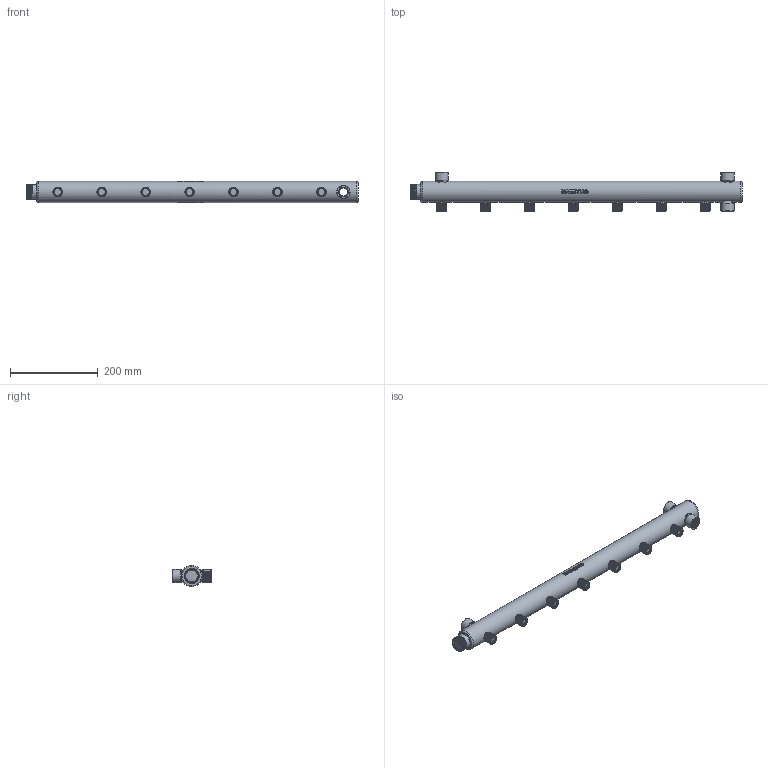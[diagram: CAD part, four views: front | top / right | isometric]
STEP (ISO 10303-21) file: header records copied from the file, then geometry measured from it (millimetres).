
FILE_DESCRIPTION(/* description */ (''),/* implementation_level */ '2;1');
FILE_NAME(/* name */ 'F:\Артём\00000\Работа удаленка\ГРВ\VTc.510.BS.060407.stp',/* time_stamp */ '2022-09-22T12:39:51+03:00',/* author */ ('almis'),/* organization */ (''),/* preprocessor_version */ 'ST-DEVELOPER v18',/* originating_system */ 'Autodesk Inventor 2020',/* authorisation */ '');
FILE_SCHEMA (('AUTOMOTIVE_DESIGN { 1 0 10303 214 3 1 1 }'));
Products named in the file (1): ГРВ-44.100
Bounding box: 755 x 89 x 48.02 mm (x, y, z)
Volume: 420095.5 mm3; surface area: 261854.8 mm2
Topology: 1 solids, 1 shells, 648 faces, 1772 edges, 1175 vertices
Faces by surface type: cylinder 348, plane 192, bspline 72, cone 34, torus 2
Full cylindrical faces by diameter (mm): 15.7 x12, 17.7 x84, 19 x30, 19.3 x7, 21.3 x70, 22.6 x33, 27.1 x1, 28 x5, 28.9 x6, 30 x3, 33.5 x6, 41 x1, 48 x1
Entity records: 52210 total; most frequent: CARTESIAN_POINT 37414, ORIENTED_EDGE 3544, DIRECTION 2289, EDGE_CURVE 1772, VERTEX_POINT 1175, B_SPLINE_CURVE_WITH_KNOTS 860, AXIS2_PLACEMENT_3D 800, EDGE_LOOP 707
